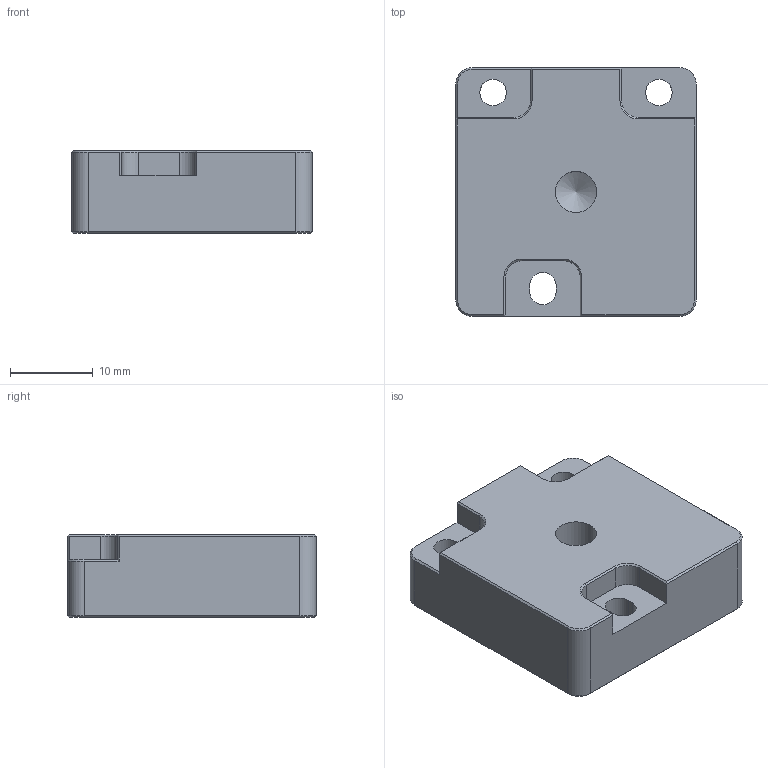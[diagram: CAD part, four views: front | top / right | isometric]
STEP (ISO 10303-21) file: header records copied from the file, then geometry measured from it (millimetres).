
FILE_DESCRIPTION((''),'2;1');
FILE_NAME('K:\Inventor\AVT-Normteile\Tripods\K5001106-ÄZ01_GuppyPro_Tripod.stp','2017-07-10T09:40:13',('mressin'),(''),'Autodesk Inventor 2011','Autodesk Inventor 2011','');
FILE_SCHEMA(('AUTOMOTIVE_DESIGN { 1 0 10303 214 1 1 1 1 }'));
Length unit declared in the file: millimetre
Products named in the file (1): K5001106-ÄZ01_GuppyPro_Tripod
Bounding box: 29 x 30 x 10 mm (x, y, z)
Volume: 7859.8 mm3; surface area: 3147.4 mm2
Topology: 1 solids, 1 shells, 71 faces, 168 edges, 99 vertices
Faces by surface type: plane 46, cylinder 13, cone 12
Full cylindrical faces by diameter (mm): 3.2 x2, 4.978 x1
Entity records: 1978 total; most frequent: DIRECTION 342, CARTESIAN_POINT 329, ORIENTED_EDGE 322, EDGE_CURVE 161, VECTOR 124, LINE 124, AXIS2_PLACEMENT_3D 109, VERTEX_POINT 96
